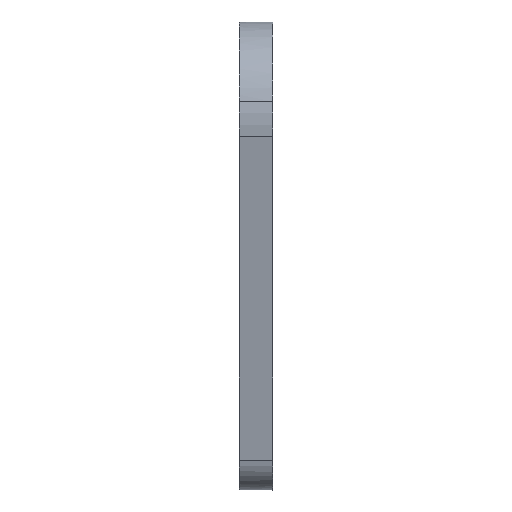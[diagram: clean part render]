
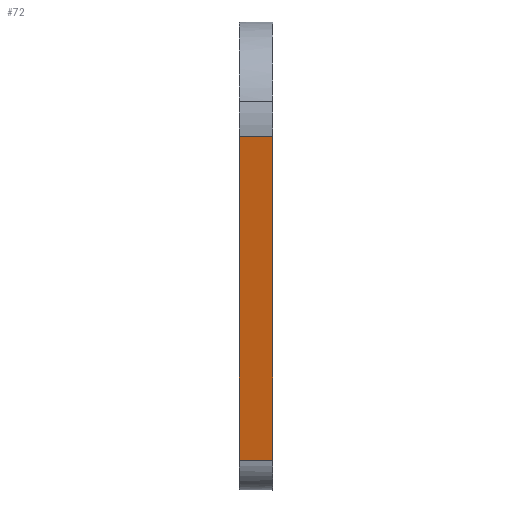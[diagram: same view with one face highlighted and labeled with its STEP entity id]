
A CAD part, front view. The second image highlights one B-rep face of the part: STEP entity #72.
In plain terms, the highlighted planar face has unit normal (0, -0.984, -0.181).
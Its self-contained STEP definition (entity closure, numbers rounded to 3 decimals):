
#72=ADVANCED_FACE('',(#120),#1812,.T.);
#120=FACE_OUTER_BOUND('',#169,.T.);
#169=EDGE_LOOP('',(#398,#399,#400,#401));
#398=ORIENTED_EDGE('',*,*,#1332,.F.);
#399=ORIENTED_EDGE('',*,*,#1264,.F.);
#400=ORIENTED_EDGE('',*,*,#1399,.T.);
#401=ORIENTED_EDGE('',*,*,#1371,.F.);
#452=(
BOUNDED_CURVE()
B_SPLINE_CURVE(2,(#2650,#2651,#2652),.UNSPECIFIED.,.F.,.F.)
B_SPLINE_CURVE_WITH_KNOTS((3,3),(-1.,0.),.UNSPECIFIED.)
CURVE()
GEOMETRIC_REPRESENTATION_ITEM()
RATIONAL_B_SPLINE_CURVE((1.,1.,1.))
REPRESENTATION_ITEM('')
);
#526=(
BOUNDED_CURVE()
B_SPLINE_CURVE(2,(#3176,#3177,#3178),.UNSPECIFIED.,.F.,.F.)
B_SPLINE_CURVE_WITH_KNOTS((3,3),(-1.,0.),.UNSPECIFIED.)
CURVE()
GEOMETRIC_REPRESENTATION_ITEM()
RATIONAL_B_SPLINE_CURVE((1.,1.,1.))
REPRESENTATION_ITEM('')
);
#574=PCURVE('',#1814,#850);
#656=PCURVE('',#1801,#932);
#733=PCURVE('',#1819,#1009);
#798=PCURVE('',#1812,#1074);
#799=PCURVE('',#1812,#1075);
#800=PCURVE('',#1812,#1076);
#801=PCURVE('',#1812,#1077);
#802=PCURVE('',#1813,#1078);
#850=DEFINITIONAL_REPRESENTATION('',(#1404),#3331);
#932=DEFINITIONAL_REPRESENTATION('',(#452),#3331);
#1009=DEFINITIONAL_REPRESENTATION('',(#1603),#3331);
#1074=DEFINITIONAL_REPRESENTATION('',(#1685),#3331);
#1075=DEFINITIONAL_REPRESENTATION('',(#1686),#3331);
#1076=DEFINITIONAL_REPRESENTATION('',(#1688),#3331);
#1077=DEFINITIONAL_REPRESENTATION('',(#1689),#3331);
#1078=DEFINITIONAL_REPRESENTATION('',(#526),#3331);
#1126=SURFACE_CURVE('',#1403,(#574,#799),.PCURVE_S1.);
#1194=SURFACE_CURVE('',#1550,(#656,#798),.PCURVE_S1.);
#1233=SURFACE_CURVE('',#1602,(#733,#801),.PCURVE_S1.);
#1261=SURFACE_CURVE('',#1687,(#800,#802),.PCURVE_S1.);
#1264=EDGE_CURVE('',#1692,#1693,#1126,.T.);
#1332=EDGE_CURVE('',#1693,#1759,#1194,.T.);
#1371=EDGE_CURVE('',#1759,#1758,#1233,.T.);
#1399=EDGE_CURVE('',#1692,#1758,#1261,.T.);
#1403=B_SPLINE_CURVE_WITH_KNOTS('',1,(#2341,#2342),.UNSPECIFIED.,.F.,.F.,
(2,2),(1.364,2.364),.UNSPECIFIED.);
#1404=B_SPLINE_CURVE_WITH_KNOTS('',1,(#2343,#2344),.UNSPECIFIED.,.F.,.F.,
(2,2),(1.364,2.364),.UNSPECIFIED.);
#1550=B_SPLINE_CURVE_WITH_KNOTS('',1,(#2648,#2649),.UNSPECIFIED.,.F.,.F.,
(2,2),(-1.,0.),.UNSPECIFIED.);
#1602=B_SPLINE_CURVE_WITH_KNOTS('',1,(#2970,#2971),.UNSPECIFIED.,.F.,.F.,
(2,2),(6.556,7.556),.UNSPECIFIED.);
#1603=B_SPLINE_CURVE_WITH_KNOTS('',1,(#2972,#2973),.UNSPECIFIED.,.F.,.F.,
(2,2),(6.556,7.556),.UNSPECIFIED.);
#1685=B_SPLINE_CURVE_WITH_KNOTS('',1,(#3166,#3167),.UNSPECIFIED.,.F.,.F.,
(2,2),(-1.,0.),.UNSPECIFIED.);
#1686=B_SPLINE_CURVE_WITH_KNOTS('',1,(#3168,#3169),.UNSPECIFIED.,.F.,.F.,
(2,2),(1.364,2.364),.UNSPECIFIED.);
#1687=B_SPLINE_CURVE_WITH_KNOTS('',1,(#3170,#3171),.UNSPECIFIED.,.F.,.F.,
(2,2),(-1.,0.),.UNSPECIFIED.);
#1688=B_SPLINE_CURVE_WITH_KNOTS('',1,(#3172,#3173),.UNSPECIFIED.,.F.,.F.,
(2,2),(-1.,0.),.UNSPECIFIED.);
#1689=B_SPLINE_CURVE_WITH_KNOTS('',1,(#3174,#3175),.UNSPECIFIED.,.F.,.F.,
(2,2),(6.556,7.556),.UNSPECIFIED.);
#1692=VERTEX_POINT('',#2242);
#1693=VERTEX_POINT('',#2243);
#1758=VERTEX_POINT('',#2308);
#1759=VERTEX_POINT('',#2309);
#1801=PLANE('',#1869);
#1812=PLANE('',#1880);
#1813=PLANE('',#1881);
#1814=(
BOUNDED_SURFACE()
B_SPLINE_SURFACE(1,2,((#1920,#1921,#1922,#1923,#1924,#1925,#1926,#1927,#1928),
(#1929,#1930,#1931,#1932,#1933,#1934,#1935,#1936,#1937)),.UNSPECIFIED.,.F.,
 .F.,.F.)
B_SPLINE_SURFACE_WITH_KNOTS((2,2),(3,2,2,2,3),(0.,1.),(0.,1.571,
3.142,4.712,6.283),.UNSPECIFIED.)
GEOMETRIC_REPRESENTATION_ITEM()
RATIONAL_B_SPLINE_SURFACE(((1.,0.707,1.,0.707,1.,
0.707,1.,0.707,1.),(1.,0.707,1.,0.707,
1.,0.707,1.,0.707,1.)))
REPRESENTATION_ITEM('')
SURFACE()
);
#1819=(
BOUNDED_SURFACE()
B_SPLINE_SURFACE(1,2,((#2034,#2035,#2036,#2037,#2038,#2039,#2040,#2041,#2042),
(#2043,#2044,#2045,#2046,#2047,#2048,#2049,#2050,#2051)),.UNSPECIFIED.,.F.,
 .F.,.F.)
B_SPLINE_SURFACE_WITH_KNOTS((2,2),(3,2,2,2,3),(0.,1.),(0.,1.571,
3.142,4.712,6.283),.UNSPECIFIED.)
GEOMETRIC_REPRESENTATION_ITEM()
RATIONAL_B_SPLINE_SURFACE(((1.,0.707,1.,0.707,1.,
0.707,1.,0.707,1.),(1.,0.707,1.,0.707,
1.,0.707,1.,0.707,1.)))
REPRESENTATION_ITEM('')
SURFACE()
);
#1869=AXIS2_PLACEMENT_3D('',#1975,#1904,$);
#1880=AXIS2_PLACEMENT_3D('',#2238,#1915,$);
#1881=AXIS2_PLACEMENT_3D('',#2239,#1916,$);
#1904=DIRECTION('',(1.,0.,0.));
#1915=DIRECTION('',(0.,-0.984,-0.181));
#1916=DIRECTION('',(-1.,0.,0.));
#1920=CARTESIAN_POINT('',(-11.5,313.588,24.805));
#1921=CARTESIAN_POINT('',(-11.5,308.333,-3.783));
#1922=CARTESIAN_POINT('',(-11.5,279.745,1.472));
#1923=CARTESIAN_POINT('',(-11.5,251.157,6.727));
#1924=CARTESIAN_POINT('',(-11.5,256.412,35.315));
#1925=CARTESIAN_POINT('',(-11.5,261.667,63.903));
#1926=CARTESIAN_POINT('',(-11.5,290.255,58.648));
#1927=CARTESIAN_POINT('',(-11.5,318.843,53.393));
#1928=CARTESIAN_POINT('',(-11.5,313.588,24.805));
#1929=CARTESIAN_POINT('',(-1.5,313.588,24.805));
#1930=CARTESIAN_POINT('',(-1.5,308.333,-3.783));
#1931=CARTESIAN_POINT('',(-1.5,279.745,1.472));
#1932=CARTESIAN_POINT('',(-1.5,251.157,6.727));
#1933=CARTESIAN_POINT('',(-1.5,256.412,35.315));
#1934=CARTESIAN_POINT('',(-1.5,261.667,63.903));
#1935=CARTESIAN_POINT('',(-1.5,290.255,58.648));
#1936=CARTESIAN_POINT('',(-1.5,318.843,53.393));
#1937=CARTESIAN_POINT('',(-1.5,313.588,24.805));
#1975=CARTESIAN_POINT('',(-1.5,314.067,-81.223));
#2034=CARTESIAN_POINT('',(-11.5,274.257,-72.275));
#2035=CARTESIAN_POINT('',(-11.5,272.282,-61.532));
#2036=CARTESIAN_POINT('',(-11.5,283.025,-59.557));
#2037=CARTESIAN_POINT('',(-11.5,293.768,-57.582));
#2038=CARTESIAN_POINT('',(-11.5,295.743,-68.325));
#2039=CARTESIAN_POINT('',(-11.5,297.718,-79.068));
#2040=CARTESIAN_POINT('',(-11.5,286.975,-81.043));
#2041=CARTESIAN_POINT('',(-11.5,276.232,-83.018));
#2042=CARTESIAN_POINT('',(-11.5,274.257,-72.275));
#2043=CARTESIAN_POINT('',(-1.5,274.257,-72.275));
#2044=CARTESIAN_POINT('',(-1.5,272.282,-61.532));
#2045=CARTESIAN_POINT('',(-1.5,283.025,-59.557));
#2046=CARTESIAN_POINT('',(-1.5,293.768,-57.582));
#2047=CARTESIAN_POINT('',(-1.5,295.743,-68.325));
#2048=CARTESIAN_POINT('',(-1.5,297.718,-79.068));
#2049=CARTESIAN_POINT('',(-1.5,286.975,-81.043));
#2050=CARTESIAN_POINT('',(-1.5,276.232,-83.018));
#2051=CARTESIAN_POINT('',(-1.5,274.257,-72.275));
#2238=CARTESIAN_POINT('',(-1.5,274.257,-72.275));
#2239=CARTESIAN_POINT('',(-11.5,314.067,59.127));
#2242=CARTESIAN_POINT('',(-11.5,256.412,24.805));
#2243=CARTESIAN_POINT('',(-1.5,256.412,24.805));
#2308=CARTESIAN_POINT('',(-11.5,274.257,-72.275));
#2309=CARTESIAN_POINT('',(-1.5,274.257,-72.275));
#2341=CARTESIAN_POINT('',(-11.5,256.412,24.805));
#2342=CARTESIAN_POINT('',(-1.5,256.412,24.805));
#2343=CARTESIAN_POINT('',(0.,2.762));
#2344=CARTESIAN_POINT('',(1.,2.762));
#2648=CARTESIAN_POINT('',(-1.5,256.412,24.805));
#2649=CARTESIAN_POINT('',(-1.5,274.257,-72.275));
#2650=CARTESIAN_POINT('',(0.755,0.992));
#2651=CARTESIAN_POINT('',(0.41,0.838));
#2652=CARTESIAN_POINT('',(0.064,0.685));
#2970=CARTESIAN_POINT('',(-1.5,274.257,-72.275));
#2971=CARTESIAN_POINT('',(-11.5,274.257,-72.275));
#2972=CARTESIAN_POINT('',(1.,6.283));
#2973=CARTESIAN_POINT('',(0.,6.283));
#3166=CARTESIAN_POINT('',(1.,0.));
#3167=CARTESIAN_POINT('',(0.,0.));
#3168=CARTESIAN_POINT('',(1.,1.));
#3169=CARTESIAN_POINT('',(1.,0.));
#3170=CARTESIAN_POINT('',(-11.5,256.412,24.805));
#3171=CARTESIAN_POINT('',(-11.5,274.257,-72.275));
#3172=CARTESIAN_POINT('',(1.,1.));
#3173=CARTESIAN_POINT('',(0.,1.));
#3174=CARTESIAN_POINT('',(0.,0.));
#3175=CARTESIAN_POINT('',(0.,1.));
#3176=CARTESIAN_POINT('',(0.245,0.992));
#3177=CARTESIAN_POINT('',(0.59,0.838));
#3178=CARTESIAN_POINT('',(0.936,0.685));
#3331=(
GEOMETRIC_REPRESENTATION_CONTEXT(2)
PARAMETRIC_REPRESENTATION_CONTEXT()
REPRESENTATION_CONTEXT('pspace','')
);
